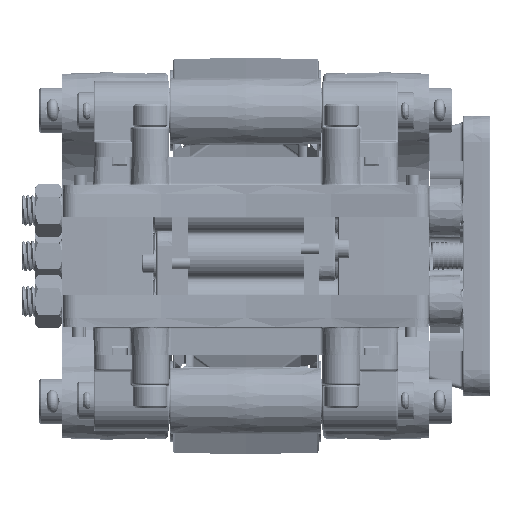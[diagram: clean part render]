
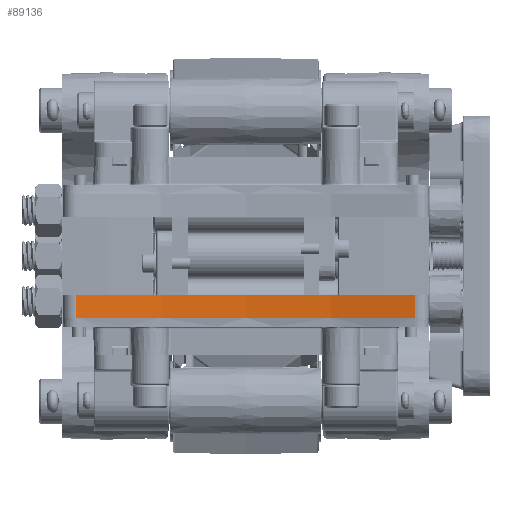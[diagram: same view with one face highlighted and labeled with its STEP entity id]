
A CAD part, left-side view. The second image highlights one B-rep face of the part: STEP entity #89136.
In plain terms, the highlighted cylindrical face has radius 317.5 mm (diameter 635 mm), a partial arc.
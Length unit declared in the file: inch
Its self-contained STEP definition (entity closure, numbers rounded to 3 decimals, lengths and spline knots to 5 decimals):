
#1711 = FACE_OUTER_BOUND ( 'NONE', #33388, .T. ) ;
#1776 = LINE ( 'NONE', #56887, #59791 ) ;
#2476 = DIRECTION ( 'NONE',  ( 0., -1., 0. ) ) ;
#5508 = EDGE_CURVE ( 'NONE', #97408, #19428, #1776, .T. ) ;
#7386 = CARTESIAN_POINT ( 'NONE',  ( -2.81549, -2.79064, -1.015 ) ) ;
#9266 = VECTOR ( 'NONE', #89175, 39.37008 ) ;
#9546 = CARTESIAN_POINT ( 'NONE',  ( -15., 0., -1.015 ) ) ;
#13599 = VERTEX_POINT ( 'NONE', #65161 ) ;
#19428 = VERTEX_POINT ( 'NONE', #102555 ) ;
#21637 = DIRECTION ( 'NONE',  ( 0., 0., 1. ) ) ;
#33388 = EDGE_LOOP ( 'NONE', ( #104747, #88858, #100974, #114835 ) ) ;
#33769 = AXIS2_PLACEMENT_3D ( 'NONE', #70330, #41031, #33811 ) ;
#33811 = DIRECTION ( 'NONE',  ( 0., -1., 0. ) ) ;
#41031 = DIRECTION ( 'NONE',  ( 0., 0., 1. ) ) ;
#42514 = CARTESIAN_POINT ( 'NONE',  ( -2.81549, -2.79064, -1.015 ) ) ;
#43224 = CARTESIAN_POINT ( 'NONE',  ( -2.81549, 2.79064, -1.015 ) ) ;
#47131 = CIRCLE ( 'NONE', #33769, 12.5 ) ;
#48037 = CARTESIAN_POINT ( 'NONE',  ( -15., 0., -1.015 ) ) ;
#54567 = EDGE_CURVE ( 'NONE', #113872, #13599, #117292, .T. ) ;
#56824 = CYLINDRICAL_SURFACE ( 'NONE', #117304, 12.5 ) ;
#56887 = CARTESIAN_POINT ( 'NONE',  ( -2.81549, 2.79064, -1.015 ) ) ;
#59791 = VECTOR ( 'NONE', #86762, 39.37008 ) ;
#62128 = EDGE_CURVE ( 'NONE', #113872, #97408, #82371, .T. ) ;
#63208 = AXIS2_PLACEMENT_3D ( 'NONE', #48037, #21637, #2476 ) ;
#65161 = CARTESIAN_POINT ( 'NONE',  ( -2.81549, -2.79064, -0.64 ) ) ;
#70330 = CARTESIAN_POINT ( 'NONE',  ( -15., 0., -0.64 ) ) ;
#70912 = EDGE_CURVE ( 'NONE', #13599, #19428, #47131, .T. ) ;
#82371 = CIRCLE ( 'NONE', #63208, 12.5 ) ;
#86762 = DIRECTION ( 'NONE',  ( 0., 0., 1. ) ) ;
#88858 = ORIENTED_EDGE ( 'NONE', *, *, #5508, .F. ) ;
#89136 = ADVANCED_FACE ( 'NONE', ( #1711 ), #56824, .F. ) ;
#89175 = DIRECTION ( 'NONE',  ( 0., 0., 1. ) ) ;
#93909 = DIRECTION ( 'NONE',  ( 0., 0., 1. ) ) ;
#97408 = VERTEX_POINT ( 'NONE', #43224 ) ;
#100974 = ORIENTED_EDGE ( 'NONE', *, *, #62128, .F. ) ;
#102555 = CARTESIAN_POINT ( 'NONE',  ( -2.81549, 2.79064, -0.64 ) ) ;
#102879 = DIRECTION ( 'NONE',  ( 0., -1., 0. ) ) ;
#104747 = ORIENTED_EDGE ( 'NONE', *, *, #70912, .T. ) ;
#113872 = VERTEX_POINT ( 'NONE', #7386 ) ;
#114835 = ORIENTED_EDGE ( 'NONE', *, *, #54567, .T. ) ;
#117292 = LINE ( 'NONE', #42514, #9266 ) ;
#117304 = AXIS2_PLACEMENT_3D ( 'NONE', #9546, #93909, #102879 ) ;
